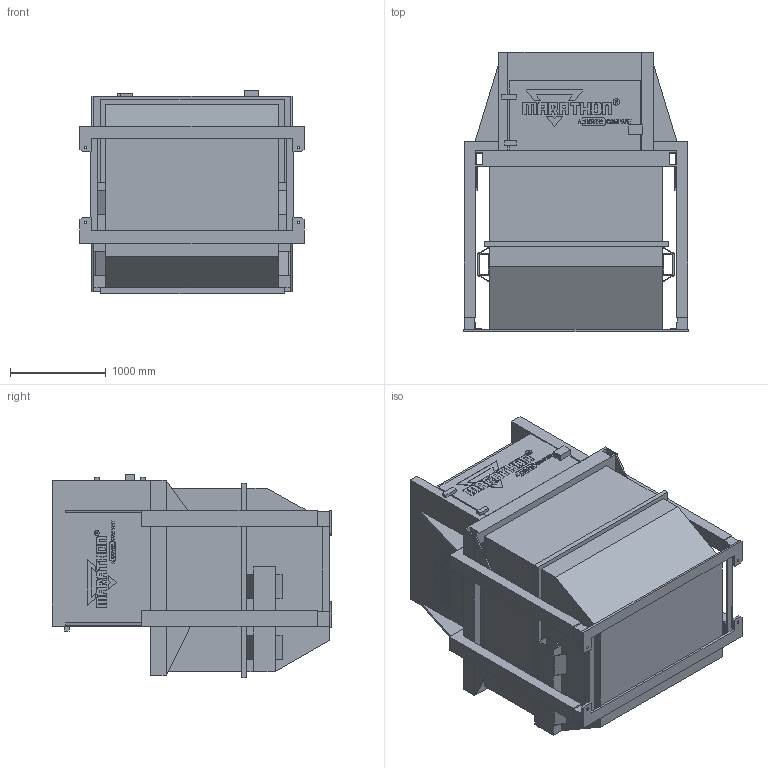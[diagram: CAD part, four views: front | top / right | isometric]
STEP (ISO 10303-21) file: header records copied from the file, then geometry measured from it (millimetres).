
FILE_DESCRIPTION((''),'2;1');
FILE_NAME('75213_ASM','2018-10-23T19:24:31',('10048000'),(''),'CREO PARAMETRIC BY PTC INC, 2017110','CREO PARAMETRIC BY PTC INC, 2017110','');
FILE_SCHEMA(('CONFIG_CONTROL_DESIGN'));
Products named in the file (3): STRUCTURE_75213; CONTAINER_75213; 75213_ASM
Assembly tree (2 placements, depth 2):
  75213_ASM
    STRUCTURE_75213
    CONTAINER_75213
Bounding box: 2339.97 x 2921.19 x 2125.41 mm (x, y, z)
Volume: 3139941818.5 mm3; surface area: 65208004.3 mm2
Topology: 2 solids, 2 shells, 2718 faces, 7518 edges, 4985 vertices
Faces by surface type: plane 2525, cylinder 193
Entity records: 85294 total; most frequent: CARTESIAN_POINT 15226, ORIENTED_EDGE 15036, DIRECTION 13350, EDGE_CURVE 7518, VECTOR 7132, LINE 7132, VERTEX_POINT 4985, AXIS2_PLACEMENT_3D 3109
